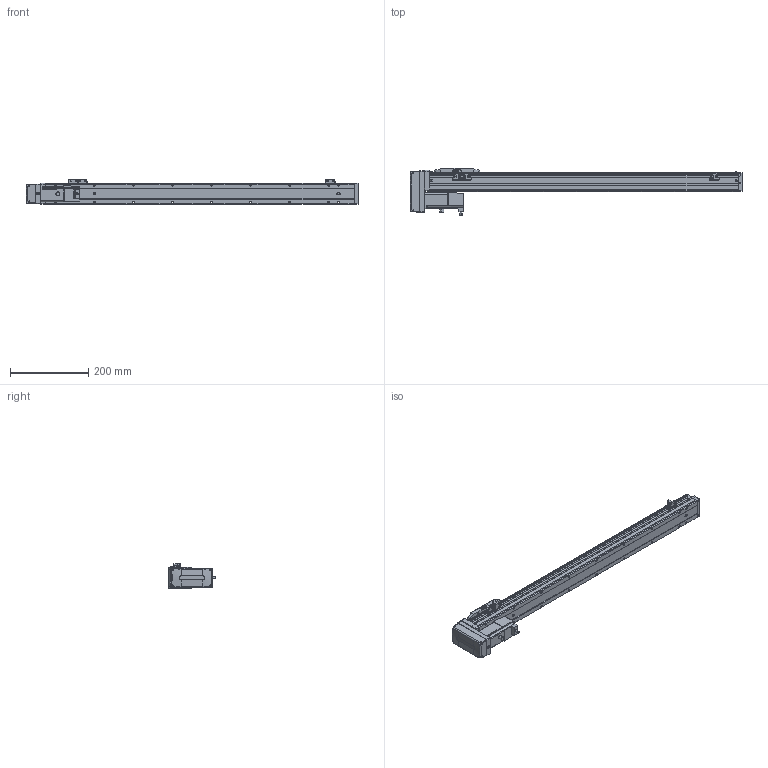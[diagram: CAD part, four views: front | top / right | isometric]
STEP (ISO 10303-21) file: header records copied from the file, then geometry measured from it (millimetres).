
FILE_DESCRIPTION (( 'STEP AP203' ), '1' );
FILE_NAME ('CTH5-L10-S650-BM-C10(¼ò).STEP', '2023-02-04T02:20:43', ( '' ), ( '' ), 'SwSTEP 2.0', 'SolidWorks 2018', '' );
FILE_SCHEMA (( 'CONFIG_CONTROL_DESIGN' ));
Length unit declared in the file: millimetre
Products named in the file (22): hex nuts, style 1-grades ab gb_GB_FASTENER_NUT_SNAB1 M3-N; 嫖萇羲壽郪磁1; CTH5賑怢; 葩璃 蚾饜极16^CTH5-L10-S650-BM-C10(潠); PM-Y45; T10-p1; CTH5覜茼え; CTH5耜蚾欶; CTH5耜蚾蟀諉啣(潠); CTH5耜晚蹟隊-1; CTH5ヶ耜啣(潠); CTH5-BL-T10_body5; CTH5菁釱-L790; CTH嫖萇羲壽假蚾啣; 内六角圆柱头螺钉M3-2; CTH5綴耜啣; CTH5-L10-S650-BM-C10(潠); M3｡｣; CTH100W假蚾啣; 100W萇儂; CTH5耜晚蹟隊; 葩璃 蚾饜极13^CTH8-L10-S50-BM-C40(潠)1
Assembly tree (37 placements, depth 4):
  CTH5-L10-S650-BM-C10(潠)
    CTH5綴耜啣
    CTH5賑怢
    CTH5ヶ耜啣(潠)
    CTH5菁釱-L790
    CTH5耜晚蹟隊  x2
    嫖萇羲壽郪磁1  x2
      CTH嫖萇羲壽假蚾啣
      PM-Y45
      M3｡｣
      内六角圆柱头螺钉M3-2
      hex nuts, style 1-grades ab gb_GB_FASTENER_NUT_SNAB1 M3-N
    CTH5覜茼え
    葩璃 蚾饜极13^CTH8-L10-S50-BM-C40(潠)1
      CTH嫖萇羲壽假蚾啣
      PM-Y45
      内六角圆柱头螺钉M3-2  x2
      M3｡｣  x2
      hex nuts, style 1-grades ab gb_GB_FASTENER_NUT_SNAB1 M3-N  x2
    CTH5耜晚蹟隊-1  x4
    葩璃 蚾饜极16^CTH5-L10-S650-BM-C10(潠)
      CTH5耜蚾蟀諉啣(潠)
      CTH5耜蚾欶
        CTH5-BL-T10_body5
      100W萇儂
        T10-p1
      CTH100W假蚾啣
Bounding box: 850 x 122.21 x 63.3 mm (x, y, z)
Volume: 2074970.6 mm3; surface area: 291612.9 mm2
Topology: 39 solids, 39 shells, 1631 faces, 4101 edges, 2644 vertices
Faces by surface type: plane 890, cylinder 476, cone 207, torus 40, bspline 18
Entity records: 38275 total; most frequent: CARTESIAN_POINT 7092, DIRECTION 6065, ORIENTED_EDGE 5826, EDGE_CURVE 2913, AXIS2_PLACEMENT_3D 2096, VECTOR 1873, LINE 1873, VERTEX_POINT 1872
